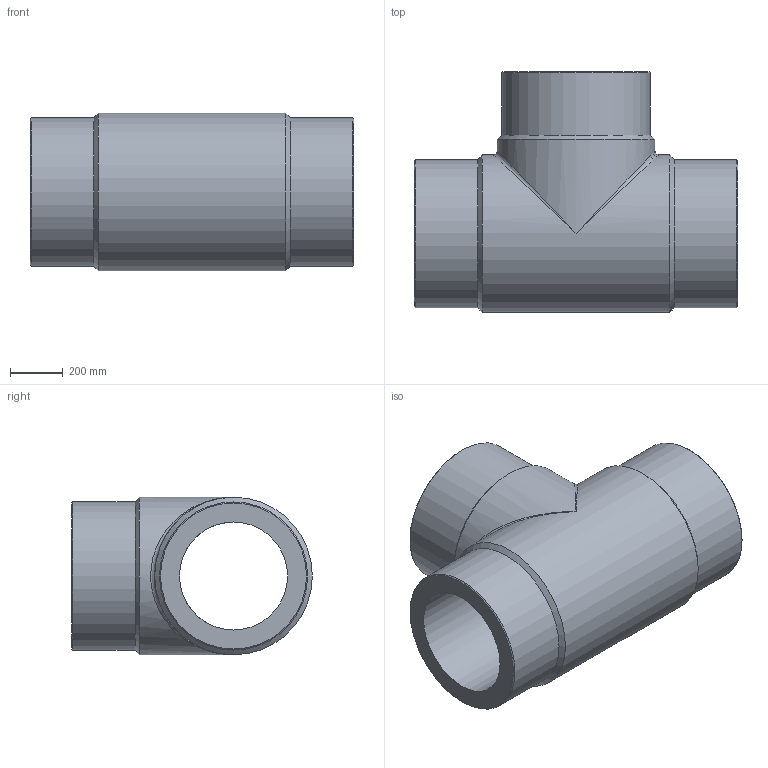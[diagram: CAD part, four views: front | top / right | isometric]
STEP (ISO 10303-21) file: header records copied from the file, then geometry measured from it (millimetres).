
FILE_DESCRIPTION(/* description */ ('Unknown'),/* implementation_level */ '2;1');
FILE_NAME(/* name */ 'TP560H',/* time_stamp */ '2022-06-06T16:52:09+02:00',/* author */ ('Unknown'),/* organization */ ('Unknown'),/* preprocessor_version */ 'ST-DEVELOPER v18.102',/* originating_system */ 'Solid Edge',/* authorisation */ 'Unknown');
FILE_SCHEMA (('AUTOMOTIVE_DESIGN {1 0 10303 214 3 1 1}'));
Length unit declared in the file: millimetre
Products named in the file (1): TP560H
Bounding box: 1222 x 910 x 596 mm (x, y, z)
Volume: 199014488.8 mm3; surface area: 5032138.5 mm2
Topology: 1 solids, 1 shells, 18 faces, 44 edges, 23 vertices
Faces by surface type: cylinder 7, cone 6, plane 3, bspline 2
Full cylindrical faces by diameter (mm): 408.6 x2, 560 x3, 596 x2
Entity records: 528 total; most frequent: CARTESIAN_POINT 171, DIRECTION 76, ORIENTED_EDGE 42, AXIS2_PLACEMENT_3D 38, EDGE_LOOP 36, FACE_BOUND 36, EDGE_CURVE 21, VERTEX_POINT 19
